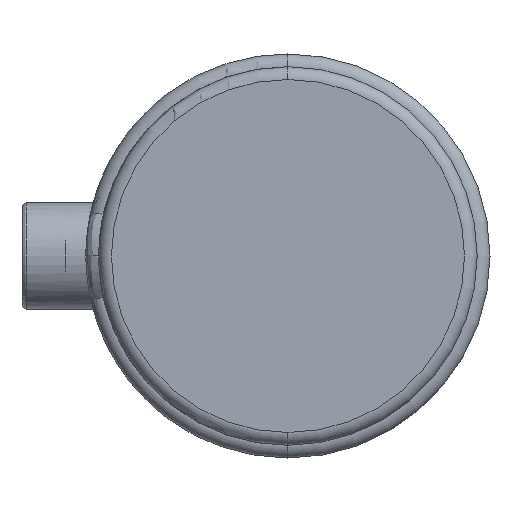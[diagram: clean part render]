
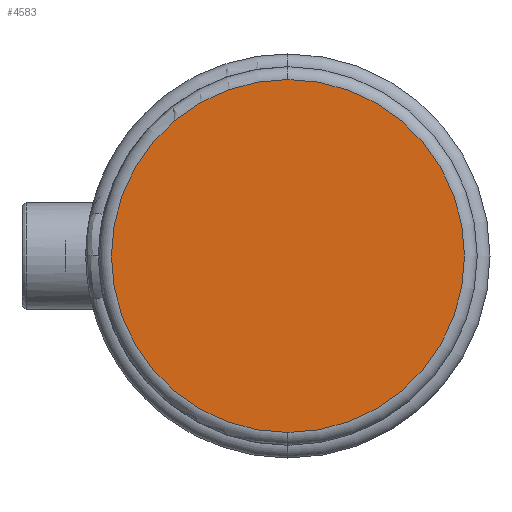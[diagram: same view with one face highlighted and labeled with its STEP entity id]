
A CAD part, left-side view. The second image highlights one B-rep face of the part: STEP entity #4583.
In plain terms, the highlighted planar face has unit normal (-1, 0, 0).
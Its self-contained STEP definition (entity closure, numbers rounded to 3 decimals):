
#318 = DIRECTION ( 'NONE',  ( 0., 0., 1. ) ) ;
#540 = CIRCLE ( 'NONE', #5201, 41.45 ) ;
#561 = DIRECTION ( 'NONE',  ( -1., 0., 0. ) ) ;
#959 = CIRCLE ( 'NONE', #5838, 41.45 ) ;
#1289 = CARTESIAN_POINT ( 'NONE',  ( 0., 0., 0. ) ) ;
#1361 = EDGE_LOOP ( 'NONE', ( #1897, #1924 ) ) ;
#1680 = EDGE_CURVE ( 'NONE', #3973, #2013, #540, .T. ) ;
#1795 = DIRECTION ( 'NONE',  ( 0., 0., 1. ) ) ;
#1811 = CARTESIAN_POINT ( 'NONE',  ( 0., 0., 41.45 ) ) ;
#1897 = ORIENTED_EDGE ( 'NONE', *, *, #1680, .T. ) ;
#1924 = ORIENTED_EDGE ( 'NONE', *, *, #3604, .T. ) ;
#2013 = VERTEX_POINT ( 'NONE', #3557 ) ;
#2083 = AXIS2_PLACEMENT_3D ( 'NONE', #3541, #561, #3975 ) ;
#3339 = DIRECTION ( 'NONE',  ( -1., 0., 0. ) ) ;
#3370 = FACE_OUTER_BOUND ( 'NONE', #1361, .T. ) ;
#3541 = CARTESIAN_POINT ( 'NONE',  ( 0., 0., 0. ) ) ;
#3557 = CARTESIAN_POINT ( 'NONE',  ( 0., 0., -41.45 ) ) ;
#3604 = EDGE_CURVE ( 'NONE', #2013, #3973, #959, .T. ) ;
#3973 = VERTEX_POINT ( 'NONE', #1811 ) ;
#3975 = DIRECTION ( 'NONE',  ( 0., 0., 1. ) ) ;
#4331 = PLANE ( 'NONE',  #2083 ) ;
#4534 = DIRECTION ( 'NONE',  ( -1., 0., 0. ) ) ;
#4583 = ADVANCED_FACE ( 'NONE', ( #3370 ), #4331, .T. ) ;
#5201 = AXIS2_PLACEMENT_3D ( 'NONE', #5836, #3339, #318 ) ;
#5836 = CARTESIAN_POINT ( 'NONE',  ( 0., 0., 0. ) ) ;
#5838 = AXIS2_PLACEMENT_3D ( 'NONE', #1289, #4534, #1795 ) ;
